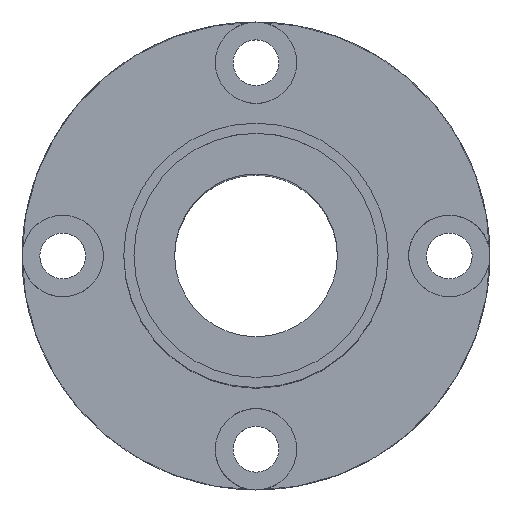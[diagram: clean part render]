
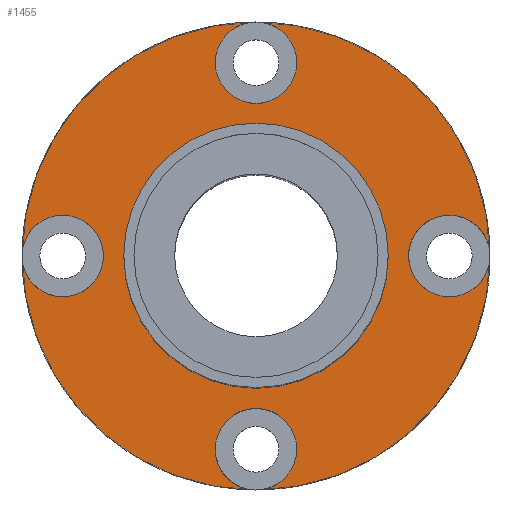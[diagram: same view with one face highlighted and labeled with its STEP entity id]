
A CAD part, top view. The second image highlights one B-rep face of the part: STEP entity #1455.
In plain terms, the highlighted planar face has unit normal (0, 0, -1).
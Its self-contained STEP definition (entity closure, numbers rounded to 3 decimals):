
#51=CARTESIAN_POINT('',(-7.86,-1.402,32.0));
#52=VERTEX_POINT('',#51);
#68=CARTESIAN_POINT('',(18.14,-1.402,32.0));
#69=VERTEX_POINT('',#68);
#76=CARTESIAN_POINT('',(5.14,-1.402,32.0));
#77=DIRECTION('',(0.0,0.0,-1.0));
#78=DIRECTION('',(-1.0,0.0,0.0));
#79=AXIS2_PLACEMENT_3D('',#76,#77,#78);
#80=CIRCLE('',#79,13.0);
#81=EDGE_CURVE('',#69,#52,#80,.T.);
#259=CARTESIAN_POINT('',(28.14,-1.402,32.0));
#260=VERTEX_POINT('',#259);
#269=CARTESIAN_POINT('',(-17.86,-1.402,32.0));
#270=VERTEX_POINT('',#269);
#271=CARTESIAN_POINT('',(5.14,-1.402,32.0));
#272=DIRECTION('',(0.0,0.0,1.0));
#273=DIRECTION('',(1.0,0.0,0.0));
#274=AXIS2_PLACEMENT_3D('',#271,#272,#273);
#275=CIRCLE('',#274,23.);
#276=EDGE_CURVE('',#260,#270,#275,.T.);
#356=CARTESIAN_POINT('',(-11.61,-1.402,32.));
#357=VERTEX_POINT('',#356);
#366=CARTESIAN_POINT('',(-16.11,-1.402,32.));
#367=VERTEX_POINT('',#366);
#368=CARTESIAN_POINT('',(-13.86,-1.402,32.));
#369=DIRECTION('',(0.0,0.0,1.0));
#370=DIRECTION('',(1.0,0.0,0.0));
#371=AXIS2_PLACEMENT_3D('',#368,#369,#370);
#372=CIRCLE('',#371,2.25);
#373=EDGE_CURVE('',#367,#357,#372,.T.);
#473=CARTESIAN_POINT('',(26.39,-1.402,32.));
#474=VERTEX_POINT('',#473);
#483=CARTESIAN_POINT('',(21.89,-1.402,32.));
#484=VERTEX_POINT('',#483);
#485=CARTESIAN_POINT('',(24.14,-1.402,32.));
#486=DIRECTION('',(0.0,0.0,1.0));
#487=DIRECTION('',(1.0,0.0,0.0));
#488=AXIS2_PLACEMENT_3D('',#485,#486,#487);
#489=CIRCLE('',#488,2.25);
#490=EDGE_CURVE('',#484,#474,#489,.T.);
#590=CARTESIAN_POINT('',(7.39,-20.402,32.));
#591=VERTEX_POINT('',#590);
#600=CARTESIAN_POINT('',(2.89,-20.402,32.));
#601=VERTEX_POINT('',#600);
#602=CARTESIAN_POINT('',(5.14,-20.402,32.));
#603=DIRECTION('',(0.0,0.0,1.0));
#604=DIRECTION('',(1.0,0.0,0.0));
#605=AXIS2_PLACEMENT_3D('',#602,#603,#604);
#606=CIRCLE('',#605,2.25);
#607=EDGE_CURVE('',#601,#591,#606,.T.);
#770=CARTESIAN_POINT('',(7.39,17.598,32.));
#771=VERTEX_POINT('',#770);
#780=CARTESIAN_POINT('',(2.89,17.598,32.));
#781=VERTEX_POINT('',#780);
#782=CARTESIAN_POINT('',(5.14,17.598,32.));
#783=DIRECTION('',(0.0,0.0,1.0));
#784=DIRECTION('',(1.0,0.0,0.0));
#785=AXIS2_PLACEMENT_3D('',#782,#783,#784);
#786=CIRCLE('',#785,2.25);
#787=EDGE_CURVE('',#781,#771,#786,.T.);
#1015=CARTESIAN_POINT('',(5.14,17.598,32.));
#1016=DIRECTION('',(0.0,0.0,1.0));
#1017=DIRECTION('',(1.0,0.0,0.0));
#1018=AXIS2_PLACEMENT_3D('',#1015,#1016,#1017);
#1019=CIRCLE('',#1018,2.25);
#1020=EDGE_CURVE('',#771,#781,#1019,.T.);
#1120=CARTESIAN_POINT('',(5.14,-20.402,32.));
#1121=DIRECTION('',(0.0,0.0,1.0));
#1122=DIRECTION('',(1.0,0.0,0.0));
#1123=AXIS2_PLACEMENT_3D('',#1120,#1121,#1122);
#1124=CIRCLE('',#1123,2.25);
#1125=EDGE_CURVE('',#591,#601,#1124,.T.);
#1229=CARTESIAN_POINT('',(24.14,-1.402,32.));
#1230=DIRECTION('',(0.0,0.0,1.0));
#1231=DIRECTION('',(1.0,0.0,0.0));
#1232=AXIS2_PLACEMENT_3D('',#1229,#1230,#1231);
#1233=CIRCLE('',#1232,2.25);
#1234=EDGE_CURVE('',#474,#484,#1233,.T.);
#1338=CARTESIAN_POINT('',(-13.86,-1.402,32.));
#1339=DIRECTION('',(0.0,0.0,1.0));
#1340=DIRECTION('',(1.0,0.0,0.0));
#1341=AXIS2_PLACEMENT_3D('',#1338,#1339,#1340);
#1342=CIRCLE('',#1341,2.25);
#1343=EDGE_CURVE('',#357,#367,#1342,.T.);
#1410=CARTESIAN_POINT('',(5.14,-1.402,32.0));
#1411=DIRECTION('',(0.0,0.0,1.0));
#1412=DIRECTION('',(1.0,0.0,0.0));
#1413=AXIS2_PLACEMENT_3D('',#1410,#1411,#1412);
#1414=CIRCLE('',#1413,23.);
#1415=EDGE_CURVE('',#270,#260,#1414,.T.);
#1420=CARTESIAN_POINT('',(5.14,-1.402,32.0));
#1421=DIRECTION('',(0.0,0.0,1.0));
#1422=DIRECTION('',(1.0,0.0,0.0));
#1423=AXIS2_PLACEMENT_3D('',#1420,#1421,#1422);
#1424=PLANE('',#1423);
#1425=ORIENTED_EDGE('',*,*,#1415,.F.);
#1426=ORIENTED_EDGE('',*,*,#276,.F.);
#1427=EDGE_LOOP('',(#1425,#1426));
#1428=FACE_OUTER_BOUND('',#1427,.T.);
#1429=ORIENTED_EDGE('',*,*,#787,.T.);
#1430=ORIENTED_EDGE('',*,*,#1020,.T.);
#1431=EDGE_LOOP('',(#1429,#1430));
#1432=FACE_BOUND('',#1431,.T.);
#1433=ORIENTED_EDGE('',*,*,#607,.T.);
#1434=ORIENTED_EDGE('',*,*,#1125,.T.);
#1435=EDGE_LOOP('',(#1433,#1434));
#1436=FACE_BOUND('',#1435,.T.);
#1437=ORIENTED_EDGE('',*,*,#490,.T.);
#1438=ORIENTED_EDGE('',*,*,#1234,.T.);
#1439=EDGE_LOOP('',(#1437,#1438));
#1440=FACE_BOUND('',#1439,.T.);
#1441=ORIENTED_EDGE('',*,*,#373,.T.);
#1442=ORIENTED_EDGE('',*,*,#1343,.T.);
#1443=EDGE_LOOP('',(#1441,#1442));
#1444=FACE_BOUND('',#1443,.T.);
#1445=CARTESIAN_POINT('',(5.14,-1.402,32.0));
#1446=DIRECTION('',(0.0,0.0,-1.0));
#1447=DIRECTION('',(-1.0,0.0,0.0));
#1448=AXIS2_PLACEMENT_3D('',#1445,#1446,#1447);
#1449=CIRCLE('',#1448,13.0);
#1450=EDGE_CURVE('',#52,#69,#1449,.T.);
#1451=ORIENTED_EDGE('',*,*,#1450,.F.);
#1452=ORIENTED_EDGE('',*,*,#81,.F.);
#1453=EDGE_LOOP('',(#1451,#1452));
#1454=FACE_BOUND('',#1453,.T.);
#1455=ADVANCED_FACE('',(#1428,#1432,#1436,#1440,#1444,#1454),#1424,.F.);
